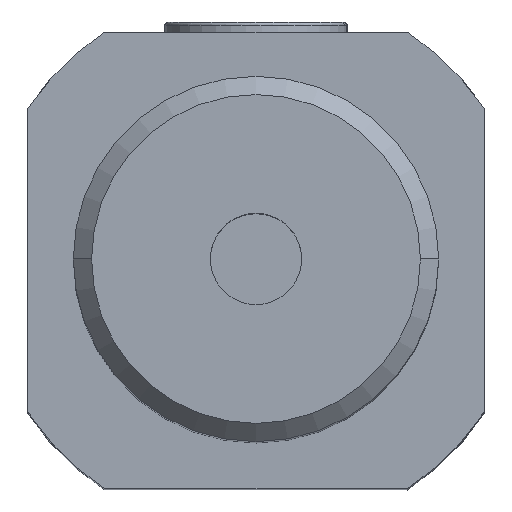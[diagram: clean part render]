
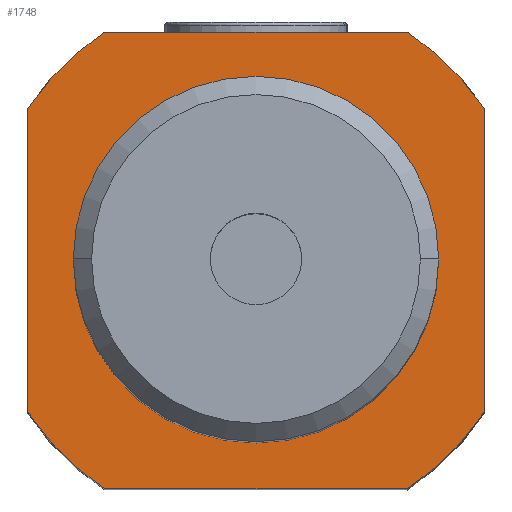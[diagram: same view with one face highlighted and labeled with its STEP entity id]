
A CAD part, top view. The second image highlights one B-rep face of the part: STEP entity #1748.
In plain terms, the highlighted planar face has unit normal (0, 0, 1).
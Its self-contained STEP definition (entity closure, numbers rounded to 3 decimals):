
#246 = AXIS2_PLACEMENT_3D ( 'NONE', #1247, #6554, #1997 ) ;
#372 = DIRECTION ( 'NONE',  ( 0., 0., 1. ) ) ;
#589 = DIRECTION ( 'NONE',  ( -1., 0., 0. ) ) ;
#608 = VECTOR ( 'NONE', #589, 1000. ) ;
#669 = CARTESIAN_POINT ( 'NONE',  ( 9.08, 5.429, -2.5 ) ) ;
#698 = PLANE ( 'NONE',  #4024 ) ;
#893 = EDGE_CURVE ( 'NONE', #5817, #7656, #8090, .T. ) ;
#985 = CARTESIAN_POINT ( 'NONE',  ( 4.871, 26.221, -2.5 ) ) ;
#986 = DIRECTION ( 'NONE',  ( 0., 0., -1. ) ) ;
#1027 = CIRCLE ( 'NONE', #5710, 15. ) ;
#1148 = CARTESIAN_POINT ( 'NONE',  ( 25.663, 5.429, -2.5 ) ) ;
#1203 = ORIENTED_EDGE ( 'NONE', *, *, #5720, .T. ) ;
#1244 = CARTESIAN_POINT ( 'NONE',  ( 25.663, 30.429, -2.5 ) ) ;
#1247 = CARTESIAN_POINT ( 'NONE',  ( 17.371, 17.929, -2.5 ) ) ;
#1327 = VERTEX_POINT ( 'NONE', #3030 ) ;
#1718 = EDGE_CURVE ( 'NONE', #8444, #1327, #1955, .T. ) ;
#1726 = CARTESIAN_POINT ( 'NONE',  ( 29.871, 26.221, -2.5 ) ) ;
#1748 = ADVANCED_FACE ( 'NONE', ( #3022, #8781 ), #698, .T. ) ;
#1955 = LINE ( 'NONE', #9395, #3941 ) ;
#1997 = DIRECTION ( 'NONE',  ( -1., 0., 0. ) ) ;
#2051 = VERTEX_POINT ( 'NONE', #1726 ) ;
#2521 = DIRECTION ( 'NONE',  ( 0., 0., 1. ) ) ;
#2751 = CARTESIAN_POINT ( 'NONE',  ( 17.371, 17.929, -2.5 ) ) ;
#3021 = EDGE_CURVE ( 'NONE', #2051, #3668, #8312, .T. ) ;
#3022 = FACE_BOUND ( 'NONE', #3915, .T. ) ;
#3030 = CARTESIAN_POINT ( 'NONE',  ( 4.871, 9.637, -2.5 ) ) ;
#3322 = EDGE_CURVE ( 'NONE', #7656, #2051, #5482, .T. ) ;
#3498 = DIRECTION ( 'NONE',  ( 0., 1., 0. ) ) ;
#3571 = VERTEX_POINT ( 'NONE', #5561 ) ;
#3634 = VERTEX_POINT ( 'NONE', #669 ) ;
#3668 = VERTEX_POINT ( 'NONE', #1244 ) ;
#3737 = CIRCLE ( 'NONE', #246, 10. ) ;
#3832 = AXIS2_PLACEMENT_3D ( 'NONE', #9242, #9403, #9743 ) ;
#3915 = EDGE_LOOP ( 'NONE', ( #6661, #6667 ) ) ;
#3941 = VECTOR ( 'NONE', #9359, 1000. ) ;
#3978 = EDGE_CURVE ( 'NONE', #3634, #5817, #5959, .T. ) ;
#4024 = AXIS2_PLACEMENT_3D ( 'NONE', #9458, #372, #6805 ) ;
#4033 = AXIS2_PLACEMENT_3D ( 'NONE', #7691, #8419, #5423 ) ;
#4194 = AXIS2_PLACEMENT_3D ( 'NONE', #2751, #8038, #3498 ) ;
#4288 = CARTESIAN_POINT ( 'NONE',  ( 7.371, 17.929, -2.5 ) ) ;
#4311 = DIRECTION ( 'NONE',  ( 1., 0., 0. ) ) ;
#4396 = DIRECTION ( 'NONE',  ( 0., 1., 0. ) ) ;
#4548 = CARTESIAN_POINT ( 'NONE',  ( 17.371, 5.429, -2.5 ) ) ;
#4844 = CARTESIAN_POINT ( 'NONE',  ( 9.08, 30.429, -2.5 ) ) ;
#4988 = AXIS2_PLACEMENT_3D ( 'NONE', #5541, #986, #6303 ) ;
#5133 = ORIENTED_EDGE ( 'NONE', *, *, #8625, .T. ) ;
#5144 = CARTESIAN_POINT ( 'NONE',  ( 17.371, 30.429, -2.5 ) ) ;
#5248 = ORIENTED_EDGE ( 'NONE', *, *, #3021, .T. ) ;
#5334 = VERTEX_POINT ( 'NONE', #4844 ) ;
#5423 = DIRECTION ( 'NONE',  ( 0., 1., 0. ) ) ;
#5482 = LINE ( 'NONE', #8262, #9210 ) ;
#5531 = CIRCLE ( 'NONE', #4194, 15. ) ;
#5541 = CARTESIAN_POINT ( 'NONE',  ( 17.371, 17.929, -2.5 ) ) ;
#5561 = CARTESIAN_POINT ( 'NONE',  ( 27.371, 17.929, -2.5 ) ) ;
#5710 = AXIS2_PLACEMENT_3D ( 'NONE', #7083, #2521, #7829 ) ;
#5720 = EDGE_CURVE ( 'NONE', #5334, #8444, #1027, .T. ) ;
#5817 = VERTEX_POINT ( 'NONE', #1148 ) ;
#5872 = EDGE_CURVE ( 'NONE', #3571, #6652, #3737, .T. ) ;
#5959 = LINE ( 'NONE', #4548, #7950 ) ;
#6303 = DIRECTION ( 'NONE',  ( -1., 0., 0. ) ) ;
#6422 = LINE ( 'NONE', #5144, #608 ) ;
#6554 = DIRECTION ( 'NONE',  ( 0., 0., -1. ) ) ;
#6652 = VERTEX_POINT ( 'NONE', #4288 ) ;
#6661 = ORIENTED_EDGE ( 'NONE', *, *, #9474, .T. ) ;
#6667 = ORIENTED_EDGE ( 'NONE', *, *, #5872, .T. ) ;
#6805 = DIRECTION ( 'NONE',  ( 1., 0., 0. ) ) ;
#7083 = CARTESIAN_POINT ( 'NONE',  ( 17.371, 17.929, -2.5 ) ) ;
#7383 = CARTESIAN_POINT ( 'NONE',  ( 29.871, 9.637, -2.5 ) ) ;
#7472 = ORIENTED_EDGE ( 'NONE', *, *, #1718, .T. ) ;
#7499 = EDGE_CURVE ( 'NONE', #1327, #3634, #5531, .T. ) ;
#7589 = ORIENTED_EDGE ( 'NONE', *, *, #7499, .T. ) ;
#7656 = VERTEX_POINT ( 'NONE', #7383 ) ;
#7691 = CARTESIAN_POINT ( 'NONE',  ( 17.371, 17.929, -2.5 ) ) ;
#7698 = ORIENTED_EDGE ( 'NONE', *, *, #3978, .T. ) ;
#7829 = DIRECTION ( 'NONE',  ( 0., 1., 0. ) ) ;
#7950 = VECTOR ( 'NONE', #4311, 1000. ) ;
#8029 = EDGE_LOOP ( 'NONE', ( #5248, #5133, #1203, #7472, #7589, #7698, #8281, #8384 ) ) ;
#8038 = DIRECTION ( 'NONE',  ( 0., 0., 1. ) ) ;
#8090 = CIRCLE ( 'NONE', #3832, 15. ) ;
#8158 = CIRCLE ( 'NONE', #4988, 10. ) ;
#8262 = CARTESIAN_POINT ( 'NONE',  ( 29.871, 17.929, -2.5 ) ) ;
#8281 = ORIENTED_EDGE ( 'NONE', *, *, #893, .T. ) ;
#8312 = CIRCLE ( 'NONE', #4033, 15. ) ;
#8384 = ORIENTED_EDGE ( 'NONE', *, *, #3322, .T. ) ;
#8419 = DIRECTION ( 'NONE',  ( 0., 0., 1. ) ) ;
#8444 = VERTEX_POINT ( 'NONE', #985 ) ;
#8625 = EDGE_CURVE ( 'NONE', #3668, #5334, #6422, .T. ) ;
#8781 = FACE_OUTER_BOUND ( 'NONE', #8029, .T. ) ;
#9210 = VECTOR ( 'NONE', #4396, 1000. ) ;
#9242 = CARTESIAN_POINT ( 'NONE',  ( 17.371, 17.929, -2.5 ) ) ;
#9359 = DIRECTION ( 'NONE',  ( 0., -1., 0. ) ) ;
#9395 = CARTESIAN_POINT ( 'NONE',  ( 4.871, 17.929, -2.5 ) ) ;
#9403 = DIRECTION ( 'NONE',  ( 0., 0., 1. ) ) ;
#9458 = CARTESIAN_POINT ( 'NONE',  ( 4.871, 5.429, -2.5 ) ) ;
#9474 = EDGE_CURVE ( 'NONE', #6652, #3571, #8158, .T. ) ;
#9743 = DIRECTION ( 'NONE',  ( 0., 1., 0. ) ) ;
